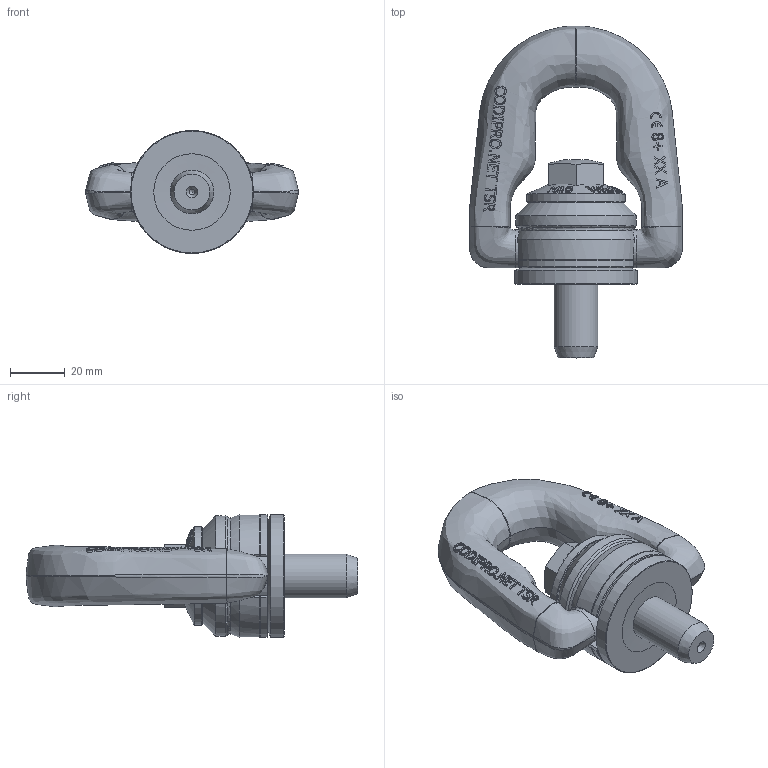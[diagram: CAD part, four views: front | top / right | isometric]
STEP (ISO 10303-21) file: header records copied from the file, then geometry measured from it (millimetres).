
FILE_DESCRIPTION(/* description */ (''),/* implementation_level */ '2;1');
FILE_NAME(/* name */ 'W:\CODIPRO\DOCUMENTS\Plans A NE PAS DIFFUSER !!!\Inventor\Standard Inventor\Produit Fini Inventor\DSP\Fichiers 3D\DSP M16.stp',/* time_stamp */ '2017-10-06T08:45:35+02:00',/* author */ ('rklenes'),/* organization */ (''),/* preprocessor_version */ 'ST-DEVELOPER v16.5',/* originating_system */ 'Autodesk Inventor 2017',/* authorisation */ '');
FILE_SCHEMA (('AUTOMOTIVE_DESIGN { 1 0 10303 214 3 1 1 }'));
Length unit declared in the file: millimetre
Products named in the file (5): DSP M16; DRB_B2B; TSM_AO2C; DRE_D2M16A; DRA_M16X57
Assembly tree (4 placements, depth 2):
  DSP M16
    DRB_B2B
    TSM_AO2C
    DRE_D2M16A
    DRA_M16X57
Bounding box: 77.89 x 121.5 x 45 mm (x, y, z)
Volume: 115930.6 mm3; surface area: 33403.1 mm2
Topology: 4 solids, 4 shells, 552 faces, 1442 edges, 932 vertices
Faces by surface type: plane 261, bspline 211, cone 37, cylinder 29, torus 11, sphere 3
Full cylindrical faces by diameter (mm): 2 x1, 14 x2, 16 x4, 16.2 x1, 22.6 x2, 23 x2, 32 x1, 36 x1, 44 x1, 45 x1
Entity records: 27216 total; most frequent: CARTESIAN_POINT 15478, ORIENTED_EDGE 2782, DIRECTION 1672, EDGE_CURVE 1391, VERTEX_POINT 928, EDGE_LOOP 637, AXIS2_PLACEMENT_3D 586, B_SPLINE_CURVE_WITH_KNOTS 567
